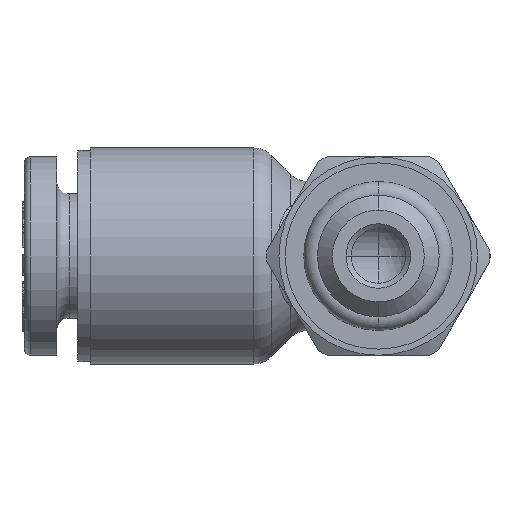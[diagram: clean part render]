
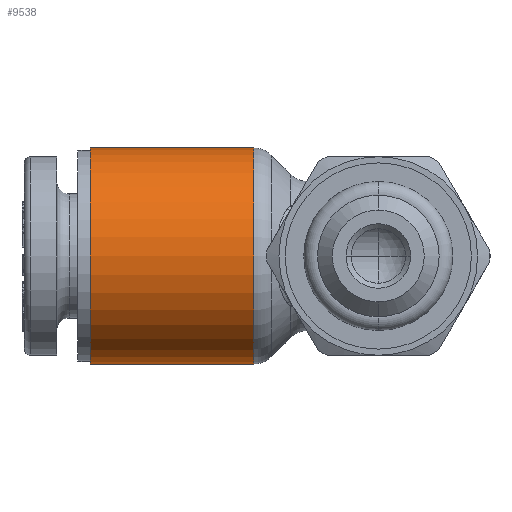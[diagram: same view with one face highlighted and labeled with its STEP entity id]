
A CAD part, front view. The second image highlights one B-rep face of the part: STEP entity #9538.
In plain terms, the highlighted cylindrical face has radius 4.35 mm (diameter 8.7 mm), a partial arc.
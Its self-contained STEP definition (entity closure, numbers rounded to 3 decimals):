
#370 = LINE ( 'NONE', #11544, #12951 ) ;
#1062 = DIRECTION ( 'NONE',  ( 0., 0., -1. ) ) ;
#1290 = CARTESIAN_POINT ( 'NONE',  ( -5.014, 9.129, -4.35 ) ) ;
#1532 = EDGE_CURVE ( 'NONE', #5736, #3831, #10612, .T. ) ;
#1982 = EDGE_CURVE ( 'NONE', #5736, #13561, #8280, .T. ) ;
#2475 = DIRECTION ( 'NONE',  ( 0., 0., -1. ) ) ;
#3792 = CARTESIAN_POINT ( 'NONE',  ( -11.6, 9.129, -4.35 ) ) ;
#3831 = VERTEX_POINT ( 'NONE', #5137 ) ;
#3941 = CARTESIAN_POINT ( 'NONE',  ( -11.6, 9.129, 4.35 ) ) ;
#4538 = DIRECTION ( 'NONE',  ( -1., 0., 0. ) ) ;
#4622 = EDGE_LOOP ( 'NONE', ( #14317, #13534, #11762, #8928 ) ) ;
#5137 = CARTESIAN_POINT ( 'NONE',  ( -5.014, 9.129, 4.35 ) ) ;
#5235 = CARTESIAN_POINT ( 'NONE',  ( -11.6, 9.129, -4.35 ) ) ;
#5736 = VERTEX_POINT ( 'NONE', #1290 ) ;
#5931 = CARTESIAN_POINT ( 'NONE',  ( -11.6, 9.129, 0. ) ) ;
#6167 = FACE_OUTER_BOUND ( 'NONE', #4622, .T. ) ;
#6246 = DIRECTION ( 'NONE',  ( -1., 0., 0. ) ) ;
#7654 = AXIS2_PLACEMENT_3D ( 'NONE', #12096, #6246, #8747 ) ;
#7929 = AXIS2_PLACEMENT_3D ( 'NONE', #12590, #10255, #1062 ) ;
#8103 = AXIS2_PLACEMENT_3D ( 'NONE', #5931, #12900, #2475 ) ;
#8280 = LINE ( 'NONE', #3792, #9405 ) ;
#8747 = DIRECTION ( 'NONE',  ( 0., 0., -1. ) ) ;
#8928 = ORIENTED_EDGE ( 'NONE', *, *, #1982, .F. ) ;
#9405 = VECTOR ( 'NONE', #13153, 1000. ) ;
#9490 = VERTEX_POINT ( 'NONE', #3941 ) ;
#9538 = ADVANCED_FACE ( 'NONE', ( #6167 ), #11846, .T. ) ;
#10255 = DIRECTION ( 'NONE',  ( -1., 0., 0. ) ) ;
#10612 = CIRCLE ( 'NONE', #7929, 4.35 ) ;
#10899 = EDGE_CURVE ( 'NONE', #13561, #9490, #13254, .T. ) ;
#11544 = CARTESIAN_POINT ( 'NONE',  ( -11.6, 9.129, 4.35 ) ) ;
#11762 = ORIENTED_EDGE ( 'NONE', *, *, #10899, .F. ) ;
#11846 = CYLINDRICAL_SURFACE ( 'NONE', #7654, 4.35 ) ;
#11981 = EDGE_CURVE ( 'NONE', #3831, #9490, #370, .T. ) ;
#12096 = CARTESIAN_POINT ( 'NONE',  ( -11.6, 9.129, 0. ) ) ;
#12590 = CARTESIAN_POINT ( 'NONE',  ( -5.014, 9.129, 0. ) ) ;
#12900 = DIRECTION ( 'NONE',  ( -1., 0., 0. ) ) ;
#12951 = VECTOR ( 'NONE', #4538, 1000. ) ;
#13153 = DIRECTION ( 'NONE',  ( -1., 0., 0. ) ) ;
#13254 = CIRCLE ( 'NONE', #8103, 4.35 ) ;
#13534 = ORIENTED_EDGE ( 'NONE', *, *, #11981, .T. ) ;
#13561 = VERTEX_POINT ( 'NONE', #5235 ) ;
#14317 = ORIENTED_EDGE ( 'NONE', *, *, #1532, .T. ) ;
